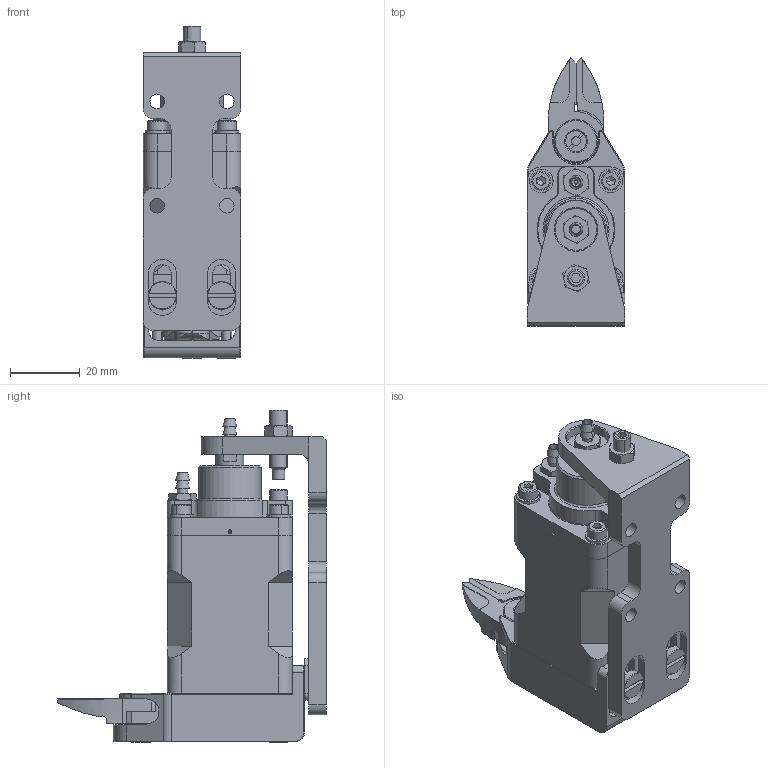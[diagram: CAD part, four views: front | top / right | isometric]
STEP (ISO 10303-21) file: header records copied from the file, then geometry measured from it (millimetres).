
FILE_DESCRIPTION (( 'STEP AP214' ), '1' );
FILE_NAME ('CRG-NY10P.STEP', '2019-11-13T06:20:16', ( '微软用户' ), ( '微软中国' ), 'SwSTEP 2.0', 'SolidWorks 2016', '' );
FILE_SCHEMA (( 'AUTOMOTIVE_DESIGN' ));
Length unit declared in the file: millimetre
Products named in the file (1): CRG-NY10P
Bounding box: 28 x 77.2 x 95.5 mm (x, y, z)
Surface area: 49487.2 mm2 (no closed solid volume)
Topology: 0 solids, 37 shells, 1280 faces, 3100 edges, 1914 vertices
Faces by surface type: cylinder 467, plane 454, cone 273, torus 86
Entity records: 52850 total; most frequent: CARTESIAN_POINT 7941, DIRECTION 6736, ORIENTED_EDGE 6116, EDGE_CURVE 3070, AXIS2_PLACEMENT_3D 2609, VERTEX_POINT 1914, VECTOR 1518, LINE 1518
